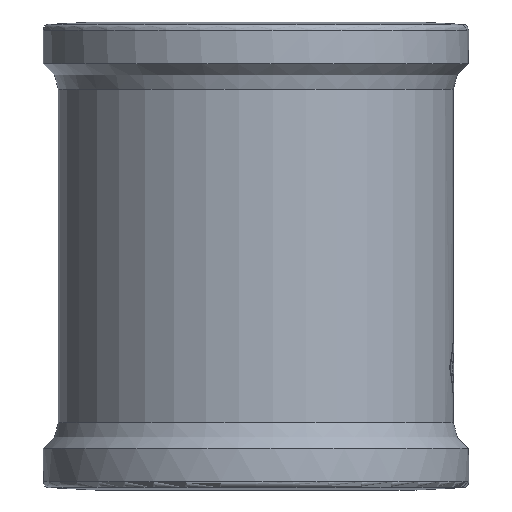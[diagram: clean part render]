
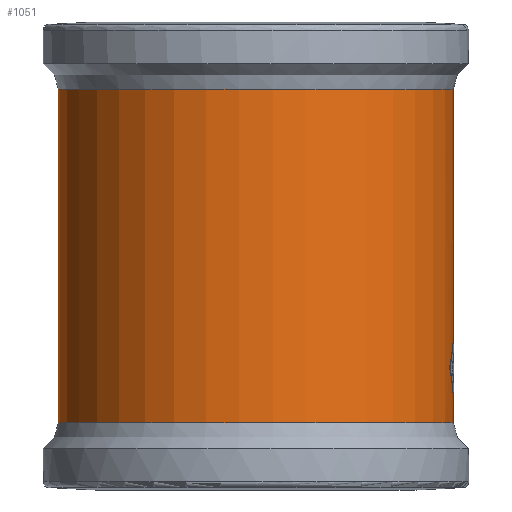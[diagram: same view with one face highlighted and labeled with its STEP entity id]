
A CAD part, left-side view. The second image highlights one B-rep face of the part: STEP entity #1051.
In plain terms, the highlighted cylindrical face has radius 33.8 mm (diameter 67.6 mm), a partial arc.
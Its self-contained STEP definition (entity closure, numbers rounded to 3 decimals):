
#212=CARTESIAN_POINT('',(-6.922,-33.084,-19.098));
#213=VERTEX_POINT('',#212);
#214=CARTESIAN_POINT('',(-0.624,-33.794,-12.101));
#215=VERTEX_POINT('',#214);
#216=CARTESIAN_POINT('',(0.0,0.0,-11.407));
#217=DIRECTION('',(-0.743,0.0,0.669));
#218=DIRECTION('',(-0.669,0.0,-0.743));
#219=AXIS2_PLACEMENT_3D('',#216,#217,#218);
#220=ELLIPSE('',#219,50.526,33.8);
#221=EDGE_CURVE('',#213,#215,#220,.T.);
#244=CARTESIAN_POINT('',(5.674,-33.32,-19.098));
#245=VERTEX_POINT('',#244);
#246=CARTESIAN_POINT('',(0.0,0.0,-12.794));
#247=DIRECTION('',(0.743,0.0,0.669));
#248=DIRECTION('',(-0.669,0.0,0.743));
#249=AXIS2_PLACEMENT_3D('',#246,#247,#248);
#250=ELLIPSE('',#249,50.526,33.8);
#251=EDGE_CURVE('',#215,#245,#250,.T.);
#269=CARTESIAN_POINT('',(-0.624,-33.794,-26.096));
#270=VERTEX_POINT('',#269);
#271=CARTESIAN_POINT('',(0.0,0.0,-26.789));
#272=DIRECTION('',(-0.743,0.0,-0.669));
#273=DIRECTION('',(-0.669,0.0,0.743));
#274=AXIS2_PLACEMENT_3D('',#271,#272,#273);
#275=ELLIPSE('',#274,50.526,33.8);
#276=EDGE_CURVE('',#270,#213,#275,.T.);
#294=CARTESIAN_POINT('',(0.0,0.0,-25.402));
#295=DIRECTION('',(0.743,0.0,-0.669));
#296=DIRECTION('',(-0.669,0.0,-0.743));
#297=AXIS2_PLACEMENT_3D('',#294,#295,#296);
#298=ELLIPSE('',#297,50.526,33.8);
#299=EDGE_CURVE('',#245,#270,#298,.T.);
#917=CARTESIAN_POINT('',(0.0,0.0,0.0));
#918=DIRECTION('',(0.0,0.0,1.0));
#919=DIRECTION('',(-1.0,0.0,0.0));
#920=AXIS2_PLACEMENT_3D('',#917,#918,#919);
#921=CYLINDRICAL_SURFACE('',#920,33.8);
#922=CARTESIAN_POINT('',(33.35,5.5,28.514));
#923=VERTEX_POINT('',#922);
#924=CARTESIAN_POINT('',(33.35,-5.5,28.514));
#925=VERTEX_POINT('',#924);
#926=CARTESIAN_POINT('',(0.0,0.0,28.514));
#927=DIRECTION('',(0.0,0.0,1.0));
#928=DIRECTION('',(1.0,0.0,0.0));
#929=AXIS2_PLACEMENT_3D('',#926,#927,#928);
#930=CIRCLE('',#929,33.8);
#931=EDGE_CURVE('',#923,#925,#930,.T.);
#932=ORIENTED_EDGE('',*,*,#931,.F.);
#933=CARTESIAN_POINT('',(33.35,5.5,20.711));
#934=VERTEX_POINT('',#933);
#935=CARTESIAN_POINT('',(33.35,5.5,28.514));
#936=DIRECTION('',(0.0,0.0,-1.0));
#937=VECTOR('',#936,7.803);
#938=LINE('',#935,#937);
#939=EDGE_CURVE('',#923,#934,#938,.T.);
#940=ORIENTED_EDGE('',*,*,#939,.T.);
#941=CARTESIAN_POINT('',(33.35,5.5,-20.711));
#942=VERTEX_POINT('',#941);
#943=CARTESIAN_POINT('',(33.35,5.5,-20.711));
#944=CARTESIAN_POINT('',(33.261,6.039,-20.512));
#945=CARTESIAN_POINT('',(33.059,7.095,-20.059));
#946=CARTESIAN_POINT('',(32.579,9.105,-18.945));
#947=CARTESIAN_POINT('',(31.992,10.975,-17.517));
#948=CARTESIAN_POINT('',(31.355,12.643,-15.827));
#949=CARTESIAN_POINT('',(30.87,13.782,-14.449));
#950=CARTESIAN_POINT('',(30.385,14.819,-12.948));
#951=CARTESIAN_POINT('',(29.863,15.846,-11.157));
#952=CARTESIAN_POINT('',(29.432,16.626,-9.431));
#953=CARTESIAN_POINT('',(29.098,17.199,-7.83));
#954=CARTESIAN_POINT('',(28.874,17.572,-6.585));
#955=CARTESIAN_POINT('',(28.683,17.881,-5.305));
#956=CARTESIAN_POINT('',(28.375,18.369,-2.688));
#957=CARTESIAN_POINT('',(28.28,18.511,-0.001));
#958=CARTESIAN_POINT('',(28.418,18.299,2.681));
#959=CARTESIAN_POINT('',(28.605,18.006,4.888));
#960=CARTESIAN_POINT('',(28.959,17.442,7.219));
#961=CARTESIAN_POINT('',(29.414,16.655,9.329));
#962=CARTESIAN_POINT('',(29.698,16.141,10.487));
#963=CARTESIAN_POINT('',(30.145,15.306,12.176));
#964=CARTESIAN_POINT('',(30.625,14.332,13.721));
#965=CARTESIAN_POINT('',(31.276,12.838,15.612));
#966=CARTESIAN_POINT('',(31.76,11.609,16.912));
#967=CARTESIAN_POINT('',(32.284,10.043,18.229));
#968=CARTESIAN_POINT('',(32.833,8.14,19.545));
#969=CARTESIAN_POINT('',(33.172,6.575,20.315));
#970=CARTESIAN_POINT('',(33.35,5.5,20.711));
#971=B_SPLINE_CURVE_WITH_KNOTS('',3,(#943,#944,#945,#946,#947,#948,#949,#950,#951,#952,#953,#954,#955,#956,#957,#958,#959,#960,#961,#962,#963,#964,#965,#966,#967,#968,#969,#970),.UNSPECIFIED.,.F.,.U.,(4,1,1,1,1,1,1,1,1,1,1,1,1,1,1,1,1,1,1,1,1,1,1,1,1,4),(-6.763,-6.623,-6.484,-6.206,-6.066,-5.927,-5.788,-5.648,-5.463,-5.37,-5.277,-5.184,-5.091,-4.72,-4.627,-4.534,-4.255,-4.116,-4.047,-3.977,-3.698,-3.629,-3.42,-3.28,-3.141,-2.863),.UNSPECIFIED.);
#972=EDGE_CURVE('',#942,#934,#971,.T.);
#973=ORIENTED_EDGE('',*,*,#972,.F.);
#974=CARTESIAN_POINT('',(33.35,5.5,-28.514));
#975=VERTEX_POINT('',#974);
#976=CARTESIAN_POINT('',(33.35,5.5,-20.711));
#977=DIRECTION('',(0.,0.,-1.0));
#978=VECTOR('',#977,7.803);
#979=LINE('',#976,#978);
#980=EDGE_CURVE('',#942,#975,#979,.T.);
#981=ORIENTED_EDGE('',*,*,#980,.T.);
#982=CARTESIAN_POINT('',(33.35,-5.5,-28.514));
#983=VERTEX_POINT('',#982);
#984=CARTESIAN_POINT('',(0.0,0.0,-28.514));
#985=DIRECTION('',(0.0,0.0,-1.0));
#986=DIRECTION('',(-1.0,0.0,0.0));
#987=AXIS2_PLACEMENT_3D('',#984,#985,#986);
#988=CIRCLE('',#987,33.8);
#989=EDGE_CURVE('',#983,#975,#988,.T.);
#990=ORIENTED_EDGE('',*,*,#989,.F.);
#991=CARTESIAN_POINT('',(33.35,-5.5,-20.711));
#992=VERTEX_POINT('',#991);
#993=CARTESIAN_POINT('',(33.35,-5.5,-28.514));
#994=DIRECTION('',(0.,0.,1.0));
#995=VECTOR('',#994,7.803);
#996=LINE('',#993,#995);
#997=EDGE_CURVE('',#983,#992,#996,.T.);
#998=ORIENTED_EDGE('',*,*,#997,.T.);
#999=CARTESIAN_POINT('',(28.334,-18.429,0.0));
#1000=VERTEX_POINT('',#999);
#1001=CARTESIAN_POINT('',(28.334,-18.429,0.));
#1002=CARTESIAN_POINT('',(28.334,-18.429,-0.668));
#1003=CARTESIAN_POINT('',(28.369,-18.376,-2.011));
#1004=CARTESIAN_POINT('',(28.57,-18.063,-4.652));
#1005=CARTESIAN_POINT('',(28.958,-17.443,-7.217));
#1006=CARTESIAN_POINT('',(29.414,-16.656,-9.327));
#1007=CARTESIAN_POINT('',(29.697,-16.143,-10.483));
#1008=CARTESIAN_POINT('',(30.139,-15.317,-12.157));
#1009=CARTESIAN_POINT('',(30.868,-13.841,-14.502));
#1010=CARTESIAN_POINT('',(31.685,-11.832,-16.724));
#1011=CARTESIAN_POINT('',(32.283,-10.049,-18.225));
#1012=CARTESIAN_POINT('',(32.835,-8.13,-19.552));
#1013=CARTESIAN_POINT('',(33.173,-6.571,-20.317));
#1014=CARTESIAN_POINT('',(33.35,-5.5,-20.711));
#1015=B_SPLINE_CURVE_WITH_KNOTS('',3,(#1001,#1002,#1003,#1004,#1005,#1006,#1007,#1008,#1009,#1010,#1011,#1012,#1013,#1014),.UNSPECIFIED.,.F.,.U.,(4,1,1,1,1,1,1,1,1,1,1,4),(-9.626,-9.487,-9.347,-9.068,-8.929,-8.859,-8.79,-8.511,-8.232,-8.093,-7.953,-7.675),.UNSPECIFIED.);
#1016=EDGE_CURVE('',#1000,#992,#1015,.T.);
#1017=ORIENTED_EDGE('',*,*,#1016,.F.);
#1018=CARTESIAN_POINT('',(33.35,-5.5,20.711));
#1019=VERTEX_POINT('',#1018);
#1020=CARTESIAN_POINT('',(33.35,-5.5,20.711));
#1021=CARTESIAN_POINT('',(33.26,-6.04,20.512));
#1022=CARTESIAN_POINT('',(33.109,-6.835,20.171));
#1023=CARTESIAN_POINT('',(32.877,-7.858,19.636));
#1024=CARTESIAN_POINT('',(32.504,-9.344,18.763));
#1025=CARTESIAN_POINT('',(31.847,-11.437,17.165));
#1026=CARTESIAN_POINT('',(31.027,-13.448,14.934));
#1027=CARTESIAN_POINT('',(30.384,-14.82,12.946));
#1028=CARTESIAN_POINT('',(29.759,-16.051,10.8));
#1029=CARTESIAN_POINT('',(29.197,-17.038,8.449));
#1030=CARTESIAN_POINT('',(28.768,-17.746,5.96));
#1031=CARTESIAN_POINT('',(28.439,-18.27,3.357));
#1032=CARTESIAN_POINT('',(28.334,-18.429,1.336));
#1033=CARTESIAN_POINT('',(28.334,-18.429,0.0));
#1034=B_SPLINE_CURVE_WITH_KNOTS('',3,(#1020,#1021,#1022,#1023,#1024,#1025,#1026,#1027,#1028,#1029,#1030,#1031,#1032,#1033),.UNSPECIFIED.,.F.,.U.,(4,1,1,1,1,1,1,1,1,1,1,4),(-1.95,-1.81,-1.741,-1.671,-1.393,-1.114,-0.975,-0.836,-0.557,-0.418,-0.279,0.),.UNSPECIFIED.);
#1035=EDGE_CURVE('',#1019,#1000,#1034,.T.);
#1036=ORIENTED_EDGE('',*,*,#1035,.F.);
#1037=CARTESIAN_POINT('',(33.35,-5.5,20.711));
#1038=DIRECTION('',(0.0,0.0,1.0));
#1039=VECTOR('',#1038,7.803);
#1040=LINE('',#1037,#1039);
#1041=EDGE_CURVE('',#1019,#925,#1040,.T.);
#1042=ORIENTED_EDGE('',*,*,#1041,.T.);
#1043=EDGE_LOOP('',(#932,#940,#973,#981,#990,#998,#1017,#1036,#1042));
#1044=FACE_OUTER_BOUND('',#1043,.T.);
#1045=ORIENTED_EDGE('',*,*,#221,.T.);
#1046=ORIENTED_EDGE('',*,*,#251,.T.);
#1047=ORIENTED_EDGE('',*,*,#299,.T.);
#1048=ORIENTED_EDGE('',*,*,#276,.T.);
#1049=EDGE_LOOP('',(#1045,#1046,#1047,#1048));
#1050=FACE_BOUND('',#1049,.T.);
#1051=ADVANCED_FACE('',(#1044,#1050),#921,.T.);
